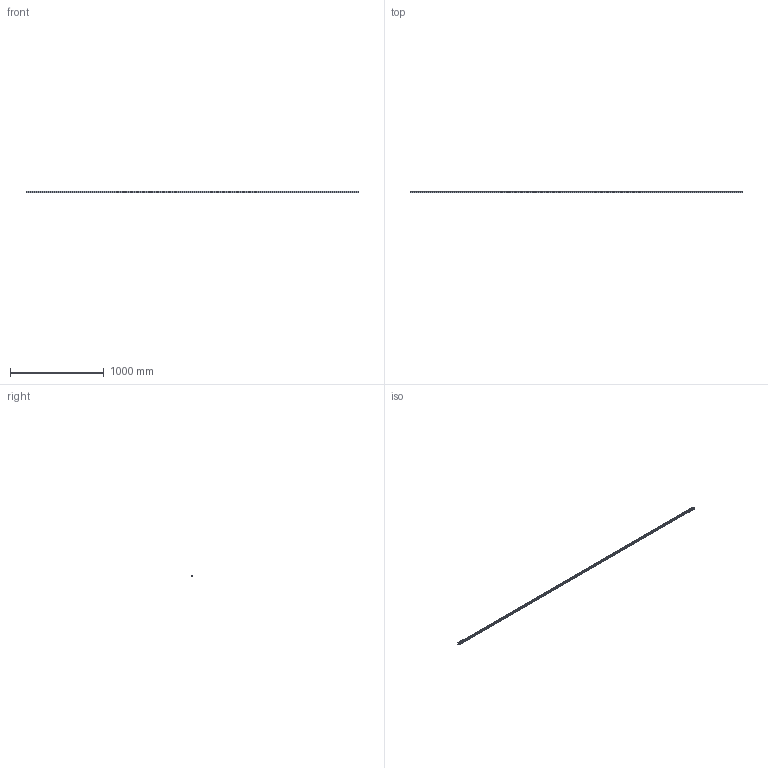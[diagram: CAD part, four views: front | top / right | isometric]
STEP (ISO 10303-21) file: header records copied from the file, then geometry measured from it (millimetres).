
FILE_DESCRIPTION (( 'STEP AP203' ), '1' );
FILE_NAME ('L1018.20R-3540.step', '2023-08-06T09:18:08', ( '' ), ( '' ), 'SwSTEP 2.0', 'SolidWorks 2019', '' );
FILE_SCHEMA (( 'CONFIG_CONTROL_DESIGN' ));
Length unit declared in the file: millimetre
Products named in the file (1): L1018.20R-3540
Bounding box: 3540 x 19.3 x 20 mm (x, y, z)
Volume: 1122634.1 mm3; surface area: 299398.6 mm2
Topology: 1 solids, 1 shells, 560 faces, 1261 edges, 703 vertices
Faces by surface type: cylinder 239, cone 236, plane 85
Entity records: 14804 total; most frequent: DIRECTION 2861, CARTESIAN_POINT 2407, ORIENTED_EDGE 2286, AXIS2_PLACEMENT_3D 1157, EDGE_CURVE 1143, VERTEX_POINT 703, EDGE_LOOP 678, CIRCLE 596
